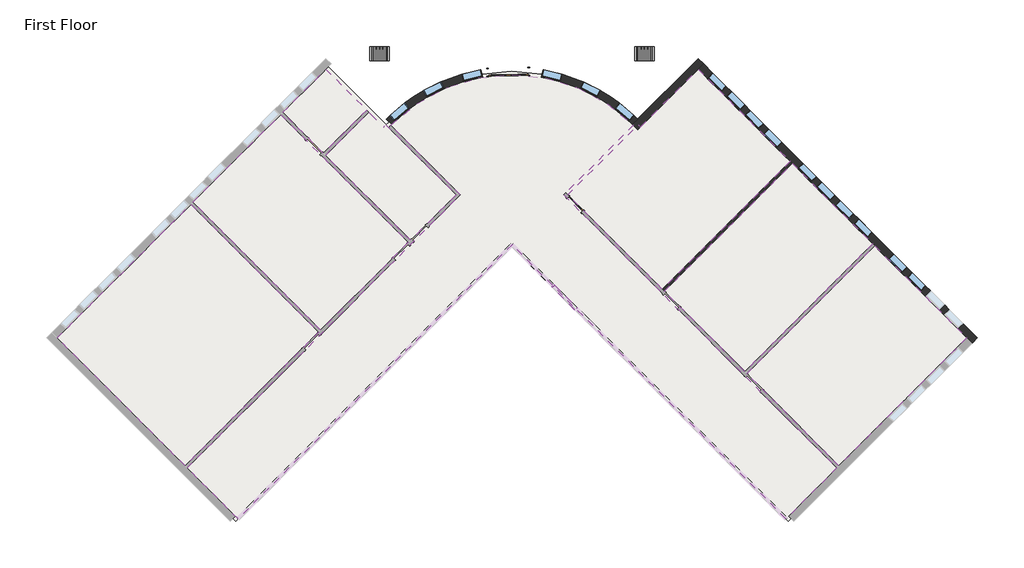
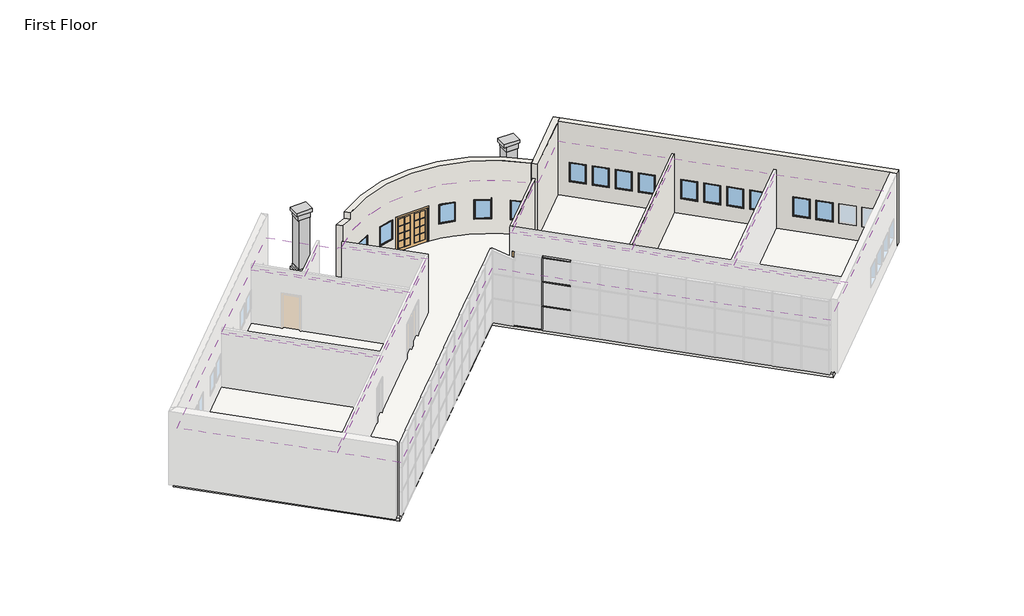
# One storey, part 4 of 4: 16 windows, 8 coverings, 7 members, 5 walls, 2 doors, 2 proxies, 1 slab.
"""IFC4 building model written with IfcOpenShell, lengths in millimetres."""

from ifc_helpers import new_model, si_unit, point, frame, frame_2d, origin, origin_with_axes, place, context, project, spatial, polyline, circle_curve, ellipse_curve, trimmed, segment, composite_curve, outline, extrude, faceted_brep, transform, mapped, element, save
from ifc_brep_helpers import plane_surface, cylinder_surface, revolved_surface, advanced_brep
from components import m_architecture_column_m_architecture_column_4d92dcec, m_double_glass_2_1830_x_2134mm_ef281dce, m_single_glass_1_0915_x_2134mm_4e5e1233, rectangular_mullion_50_x_150mm_40297ad3, rectangular_mullion_50_x_150mm_f494fff1, rectangular_mullion_50_x_150mm_5da8f88f, m_fixed_0915_x_1220mm_bde29121, m_fixed_0915_x_1220mm_2a2509e7

model = new_model("IFC4")

# Units and contexts
model_context = context("Model", 3, world=origin())
ifc_project = project(units=[si_unit("LENGTHUNIT", "METRE", prefix="MILLI")], contexts=[model_context])

# Site, building, storey
site = spatial("IfcSite", under=ifc_project)
building = spatial("IfcBuilding", under=site)
storey = spatial("IfcBuildingStorey", under=building, Name="First Floor", Elevation=0.0)

# Proxies
placement = place(None, origin())
m_architecture_column_m_architecture_column_shape = m_architecture_column_m_architecture_column_4d92dcec(model_context)
element("IfcBuildingElementProxy", 1, Name="M_architecture_column : M_architecture_column", ObjectType="M_architecture_column : M_architecture_column", at=placement, inside=storey, context=model_context, shape_type="MappedRepresentation", body=[
    mapped(m_architecture_column_m_architecture_column_shape, transform((-7731.6648159, 8125.0714361, 0.0), x_axis=(-1.0, 0.0, 0.0), y_axis=(0.0, -1.0, 0.0), z_axis=(0.0, 0.0, 1.0))),
])
element("IfcBuildingElementProxy", 2, Name="M_architecture_column : M_architecture_column", ObjectType="M_architecture_column : M_architecture_column", at=placement, inside=storey, context=model_context, shape_type="MappedRepresentation", body=[
    mapped(m_architecture_column_m_architecture_column_shape, transform((4529.1734241, 8125.0714361, 0.0), x_axis=(-1.0, 0.0, 0.0), y_axis=(0.0, -1.0, 0.0), z_axis=(0.0, 0.0, 1.0))),
])

# Coverings
element("IfcCovering", 3, ObjectType="600 x 600mm grid", at=placement, inside=storey, context=model_context, shape_type="SweptSolid", body=[
    extrude(outline(polyline([(-10551.8033322, -2052.473346), (-16737.0431239, -8237.7131378), (-22658.8856396, -2315.870622), (-16473.6458479, 3869.3691697), (-10551.8033322, -2052.473346)])), frame((0.0, 0.0, 3353.0), z_axis=(0.0, 0.0, 1.0), x_axis=(1.0, 0.0, 0.0)), (0.0, 0.0, 1.0), 52.0),
])
element("IfcCovering", 4, ObjectType="600 x 600mm grid", at=placement, inside=storey, context=model_context, shape_type="SweptSolid", body=[
    extrude(outline(polyline([(-16375.7115587, 3967.3034589), (-12319.9238385, 8023.0911791), (-6398.0813228, 2101.2486633), (-10453.869043, -1954.5390569), (-16375.7115587, 3967.3034589)])), frame((0.0, 0.0, 3353.0), z_axis=(0.0, 0.0, 1.0), x_axis=(1.0, 0.0, 0.0)), (0.0, 0.0, 1.0), 52.0),
])
element("IfcCovering", 5, ObjectType="600 x 600mm grid", at=placement, inside=storey, context=model_context, shape_type="SweptSolid", body=[
    extrude(outline(polyline([(-12221.9895493, 8121.0254683), (-10222.2915721, 10120.7234455), (-8331.6648159, 8230.0966893), (-10331.3627931, 6230.3987121), (-12221.9895493, 8121.0254683)])), frame((0.0, 0.0, 3353.0), z_axis=(0.0, 0.0, 1.0), x_axis=(1.0, 0.0, 0.0)), (0.0, 0.0, 1.0), 52.0),
])
element("IfcCovering", 6, ObjectType="600 x 600mm grid", at=placement, inside=storey, context=model_context, shape_type="SweptSolid", body=[
    extrude(outline(polyline([(-8233.7305267, 8132.1624001), (-7543.133828, 7441.5657013), (-7436.5374807, 7548.1620486), (-4193.8527091, 4305.477277), (-6300.1470336, 2199.1829525), (-10233.4285039, 6132.4644229), (-8233.7305267, 8132.1624001)])), frame((0.0, 0.0, 3353.0), z_axis=(0.0, 0.0, 1.0), x_axis=(1.0, 0.0, 0.0)), (0.0, 0.0, 1.0), 52.0),
])
element("IfcCovering", 7, ObjectType="600 x 600mm grid", at=placement, inside=storey, context=model_context, shape_type="SweptSolid", body=[
    extrude(outline(polyline([(4234.0460889, 7548.1620486), (4340.6424361, 7441.5657013), (7019.8001803, 10120.7234455), (11281.3559738, 5859.167652), (5359.5134581, -62.6748638), (991.3613173, 4305.477277), (4234.0460889, 7548.1620486)])), frame((0.0, 0.0, 3353.0), z_axis=(0.0, 0.0, 1.0), x_axis=(1.0, 0.0, 0.0)), (0.0, 0.0, 1.0), 52.0),
])
element("IfcCovering", 8, ObjectType="600 x 600mm grid", at=placement, inside=storey, context=model_context, shape_type="SweptSolid", body=[
    extrude(outline(polyline([(11379.290263, 5761.2333628), (15096.9041651, 2043.6194607), (9175.0616494, -3878.2230551), (5457.4477473, -160.609153), (11379.290263, 5761.2333628)])), frame((0.0, 0.0, 3353.0), z_axis=(0.0, 0.0, 1.0), x_axis=(1.0, 0.0, 0.0)), (0.0, 0.0, 1.0), 52.0),
])
element("IfcCovering", 9, ObjectType="600 x 600mm grid", at=placement, inside=storey, context=model_context, shape_type="SweptSolid", body=[
    extrude(outline(polyline([(15194.8384543, 1945.6851715), (19456.3942478, -2315.870622), (13534.5517321, -8237.7131378), (9272.9959386, -3976.1573443), (15194.8384543, 1945.6851715)])), frame((0.0, 0.0, 3353.0), z_axis=(0.0, 0.0, 1.0), x_axis=(1.0, 0.0, 0.0)), (0.0, 0.0, 1.0), 52.0),
])
element("IfcCovering", 10, ObjectType="600 x 600mm grid", at=placement, inside=storey, context=model_context, shape_type="SweptSolid", body=[
    extrude(outline(composite_curve([segment(polyline([(795.4927389, 4305.477277), (13436.6174429, -8335.647427), (11082.835745, -10689.4291248), (-1601.2456959, 1994.6523161), (-14285.3271368, -10689.4291248), (-16639.1088347, -8335.647427), (-3997.9841307, 4305.477277), (-7216.038281, 7523.5314273)]), True, "CONTINUOUS"), segment(trimmed(circle_curve(frame_2d((-1601.2456959, 1994.6523161)), 7880.0), [point((-7216.038281, 7523.5314273))], [point((4013.5468892, 7523.5314273))], False, "CARTESIAN"), True, "CONTINUOUS"), segment(polyline([(4013.5468892, 7523.5314273), (795.4927389, 4305.477277)]), True, "CONTINUOUS")], self_intersect=False)), frame((0.0, 0.0, 3353.0), z_axis=(0.0, 0.0, 1.0), x_axis=(1.0, 0.0, 0.0)), (0.0, 0.0, 1.0), 52.0),
])

# Doors
m_double_glass_2_1830_x_2134mm_shape = m_double_glass_2_1830_x_2134mm_ef281dce(model_context)
element("IfcDoor", 11, ObjectType="M_Double-Glass 2 : 1830 x 2134mm", at=placement, inside=storey, context=model_context, shape_type="MappedRepresentation", body=[
    mapped(m_double_glass_2_1830_x_2134mm_shape, transform((-1775.1372024, 9996.7407669, 0.0), x_axis=(-0.9997639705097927, -0.021725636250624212, 0.0), y_axis=(0.021725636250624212, -0.9997639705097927, 0.0), z_axis=(0.0, 0.0, 1.0))),
])
m_single_glass_1_0915_x_2134mm_shape = m_single_glass_1_0915_x_2134mm_4e5e1233(model_context)
element("IfcDoor", 12, ObjectType="M_Single-Glass 1 : 0915 x 2134mm", at=placement, inside=storey, context=model_context, shape_type="MappedRepresentation", body=[
    mapped(m_single_glass_1_0915_x_2134mm_shape, transform((1324.7621646, 3874.1421405, 0.0), x_axis=(-0.7071067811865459, 0.7071067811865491, 0.0), y_axis=(-0.7071067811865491, -0.7071067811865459, 0.0), z_axis=(0.0, 0.0, 1.0))),
])

# Members
rectangular_mullion_50_x_150mm_shape = rectangular_mullion_50_x_150mm_40297ad3(model_context)
element("IfcMember", 13, ObjectType="Rectangular Mullion : 50 x 150mm", at=placement, inside=storey, context=model_context, shape_type="MappedRepresentation", body=[
    mapped(rectangular_mullion_50_x_150mm_shape, transform((306.5283997, 86.8782204, 0.0), x_axis=(-0.7071067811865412, 0.7071067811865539, 0.0), y_axis=(0.7071067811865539, 0.7071067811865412, 0.0), z_axis=(0.0, 0.0, -1.0))),
])
rectangular_mullion_50_x_150mm_2_shape = rectangular_mullion_50_x_150mm_f494fff1(model_context)
element("IfcMember", 14, ObjectType="Rectangular Mullion : 50 x 150mm", at=placement, inside=storey, context=model_context, shape_type="MappedRepresentation", body=[
    mapped(rectangular_mullion_50_x_150mm_2_shape, transform((324.2060693, 69.2005509, 1524.0), x_axis=(0.0, 0.0, 1.0), y_axis=(0.7071067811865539, 0.7071067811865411, 0.0), z_axis=(-0.7071067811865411, 0.7071067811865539, 0.0))),
])
element("IfcMember", 15, ObjectType="Rectangular Mullion : 50 x 150mm", at=placement, inside=storey, context=model_context, shape_type="MappedRepresentation", body=[
    mapped(rectangular_mullion_50_x_150mm_2_shape, transform((324.2060693, 69.2005509, 3048.0), x_axis=(0.0, 0.0, 1.0), y_axis=(0.7071067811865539, 0.7071067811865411, 0.0), z_axis=(-0.7071067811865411, 0.7071067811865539, 0.0))),
])
rectangular_mullion_50_x_150mm_3_shape = rectangular_mullion_50_x_150mm_5da8f88f(model_context)
element("IfcMember", 16, ObjectType="Rectangular Mullion : 50 x 150mm", at=placement, inside=storey, context=model_context, shape_type="MappedRepresentation", body=[
    mapped(rectangular_mullion_50_x_150mm_3_shape, transform((288.8507302, 104.55589, 0.0), x_axis=(0.0, 0.0, -1.0), y_axis=(0.7071067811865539, 0.7071067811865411, 0.0), z_axis=(0.7071067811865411, -0.7071067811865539, 0.0))),
])
element("IfcMember", 17, ObjectType="Rectangular Mullion : 50 x 150mm", at=placement, inside=storey, context=model_context, shape_type="MappedRepresentation", body=[
    mapped(rectangular_mullion_50_x_150mm_3_shape, transform((324.2060693, 69.2005509, 4572.0), x_axis=(0.0, 0.0, 1.0), y_axis=(0.7071067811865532, 0.7071067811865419, 0.0), z_axis=(-0.7071067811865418, 0.7071067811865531, 0.0))),
])
element("IfcMember", 18, ObjectType="Rectangular Mullion : 50 x 150mm", at=placement, inside=storey, context=model_context, shape_type="MappedRepresentation", body=[
    mapped(rectangular_mullion_50_x_150mm_shape, transform((306.5283997, 86.8782204, 1524.0), x_axis=(-0.7071067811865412, 0.7071067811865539, 0.0), y_axis=(0.7071067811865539, 0.7071067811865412, 0.0), z_axis=(0.0, 0.0, -1.0))),
])
element("IfcMember", 19, ObjectType="Rectangular Mullion : 50 x 150mm", at=placement, inside=storey, context=model_context, shape_type="MappedRepresentation", body=[
    mapped(rectangular_mullion_50_x_150mm_shape, transform((306.5283997, 86.8782204, 3048.0), x_axis=(-0.7071067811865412, 0.7071067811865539, 0.0), y_axis=(0.7071067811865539, 0.7071067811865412, 0.0), z_axis=(0.0, 0.0, -1.0))),
])

# Slab
element("IfcSlab", 20, ObjectType="160mm Concrete With 50mm Metal Deck", at=placement, inside=storey, context=model_context, shape_type="SweptSolid", body=[
    extrude(outline(composite_curve([segment(polyline([(-10222.2915721, 10354.0686833), (-7419.2302211, 7551.0073322)]), True, "CONTINUOUS"), segment(trimmed(circle_curve(frame_2d((-1601.2456959, 1994.6523161)), 8045.0), [point((-7419.2302211, 7551.0073322))], [point((4216.7388292, 7551.0073322))], False, "CARTESIAN"), True, "CONTINUOUS"), segment(polyline([(4216.7388292, 7551.0073322), (7019.8001803, 10354.0686833), (19689.7394856, -2315.870622), (11199.5083639, -10806.1017437), (-1601.2456959, 1994.6523161), (-14401.9997557, -10806.1017437), (-22892.2308774, -2315.870622), (-10222.2915721, 10354.0686833)]), True, "CONTINUOUS")], self_intersect=False)), frame((0.0, 0.0, -210.0), z_axis=(0.0, 0.0, 1.0), x_axis=(1.0, 0.0, 0.0)), (0.0, 0.0, 1.0), 210.0),
])

# Walls
element("IfcWall", 21, ObjectType="Exterior - Brick on Mtl. Stud", at=placement, inside=storey, context=model_context, shape_type="AdvancedBrep", body=[
    advanced_brep(
    [(4212.7441701, 7313.6674352, 4572.0), (4212.7441701, 7313.6674352, 0.0), (7019.8001803, 10120.7234455, 0.0), (7267.2875537, 10368.2108189, 0.0), (7267.2875537, 10368.2108189, 4572.0), (7019.8001803, 10120.7234455, 4572.0), (3970.7557398, 7566.6537518, 0.0), (3970.7557398, 7566.6537518, 4572.0), (4218.2431133, 7814.1411252, 4572.0), (7019.8001803, 10615.6981923, 4572.0), (7019.8001803, 10615.6981923, 0.0), (4218.2431133, 7814.1411252, 0.0), (4109.8638796, 7423.9826013, 0.0), (4013.5506313, 7523.5275434, 0.0)],
    [
        (0, 1),
        (1, 2),
        (2, 3),
        (3, 4),
        (4, 5),
        (5, 0),
        (6, 7),
        (7, 8),
        (8, 9),
        (9, 10),
        (10, 11),
        (11, 6),
        (1, 12, circle_curve(frame((-1601.2456959, 1994.6523161, 0.0), z_axis=(0.0, 0.0, 1.0), x_axis=(1.0, 0.0, 0.0)), 7880.0)),
        (12, 13, circle_curve(frame((-1601.2456959, 1994.6523161, 0.0), z_axis=(0.0, 0.0, 1.0), x_axis=(1.0, 0.0, 0.0)), 7879.9999955)),
        (13, 6, circle_curve(frame((-1601.2456959, 1994.6523161, 0.0), z_axis=(0.0, 0.0, 1.0), x_axis=(1.0, 0.0, 0.0)), 7879.9999413)),
        (10, 3),
        (4, 9),
        (7, 0, circle_curve(frame((-1601.2456959, 1994.6523161, 4572.0), z_axis=(0.0, 0.0, -1.0), x_axis=(1.0, 0.0, 0.0)), 7880.0)),
    ],
    [
        plane_surface(frame((4250.0629184, 7350.9861836, 0.0), z_axis=(0.7071067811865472, -0.7071067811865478, 0.0), x_axis=(0.7071067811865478, 0.7071067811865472, 0.0))),
        plane_surface(frame((4002.575545, 7598.473557, 0.0), z_axis=(-0.7071067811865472, 0.7071067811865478, 0.0), x_axis=(-0.7071067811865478, -0.7071067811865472, 0.0))),
        plane_surface(frame((4340.6424361, 7441.5657013, 0.0), z_axis=(0.0, 0.0, -1.0), x_axis=(-0.7071067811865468, 0.7071067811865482, 0.0))),
        plane_surface(frame((7143.543867, 10244.4671322, 4572.0), z_axis=(0.0, 0.0, 1.0), x_axis=(-0.707106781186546, 0.7071067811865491, 0.0))),
        plane_surface(frame((7019.8001803, 10615.6981923, 0.0), z_axis=(0.7071067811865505, 0.7071067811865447, 0.0), x_axis=(-0.7071067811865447, 0.7071067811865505, 0.0))),
        revolved_surface(polyline([(6278.7543041, 1994.6523161, 0.0), (6278.7543041, 1994.6523161, 4572.0)]), (-1601.2456959, 1994.6523161, 0.0), (0.0, 0.0, -1.0)),
    ],
    [
        (0, [[1, 2, 3, 4, 5, 6]]),
        (1, [[7, 8, 9, 10, 11, 12]]),
        (2, [[-3, -2, 13, 14, 15, -12, -11, 16]]),
        (3, [[-6, -5, 17, -9, -8, 18]]),
        (4, [[-4, -16, -10, -17]]),
        (5, [[-18, -7, -15, -14, -13, -1]]),
    ],
),
])
element("IfcWall", 22, ObjectType="Exterior - Brick on Mtl. Stud", at=placement, inside=storey, context=model_context, shape_type="Brep", body=[
    faceted_brep([(7019.8001803, 10120.7234455, 0.0), (11281.3559738, 5859.167652, 0.0), (11379.290263, 5761.2333628, 0.0), (15096.9041651, 2043.6194607, 0.0), (15194.8384543, 1945.6851715, 0.0), (19456.3942478, -2315.870622, 0.0), (19703.8816212, -2563.3579955, 0.0), (19703.8816212, -2563.3579955, 4572.0), (19456.3942478, -2315.870622, 4572.0), (7019.8001803, 10120.7234455, 4572.0), (19041.6761207, -1901.1524949, 915.0), (18394.6734159, -1254.1497901, 915.0), (18394.6734159, -1254.1497901, 2135.0), (19041.6761207, -1901.1524949, 2135.0), (18179.7129544, -1039.1893286, 915.0), (17532.7102496, -392.1866238, 915.0), (17532.7102496, -392.1866238, 2135.0), (18179.7129544, -1039.1893286, 2135.0), (17317.7497881, -177.2261623, 915.0), (16670.7470833, 469.7765424, 915.0), (16670.7470833, 469.7765424, 2135.0), (17317.7497881, -177.2261623, 2135.0), (16455.7866219, 684.7370039, 915.0), (15808.7839171, 1331.7397087, 915.0), (15808.7839171, 1331.7397087, 2135.0), (16455.7866219, 684.7370039, 2135.0), (12257.1680181, 4883.3556077, 915.0), (11610.1653133, 5530.3583124, 915.0), (11610.1653133, 5530.3583124, 2135.0), (12257.1680181, 4883.3556077, 2135.0), (13119.1311844, 4021.3924414, 915.0), (12472.1284796, 4668.3951462, 915.0), (12472.1284796, 4668.3951462, 2135.0), (13119.1311844, 4021.3924414, 2135.0), (13981.0943507, 3159.4292751, 915.0), (13334.0916459, 3806.4319799, 915.0), (13334.0916459, 3806.4319799, 2135.0), (13981.0943507, 3159.4292751, 2135.0), (14843.0575169, 2297.4661089, 915.0), (14196.0548121, 2944.4688136, 915.0), (14196.0548121, 2944.4688136, 2135.0), (14843.0575169, 2297.4661089, 2135.0), (8081.5210123, 9059.0026135, 915.0), (7434.5183075, 9706.0053183, 915.0), (7434.5183075, 9706.0053183, 2135.0), (8081.5210123, 9059.0026135, 2135.0), (8943.4841785, 8197.0394473, 915.0), (8296.4814737, 8844.042152, 915.0), (8296.4814737, 8844.042152, 2135.0), (8943.4841785, 8197.0394473, 2135.0), (9805.4473448, 7335.076281, 915.0), (9158.44464, 7982.0789858, 915.0), (9158.44464, 7982.0789858, 2135.0), (9805.4473448, 7335.076281, 2135.0), (10667.4105111, 6473.1131147, 915.0), (10020.4078063, 7120.1158195, 915.0), (10020.4078063, 7120.1158195, 2135.0), (10667.4105111, 6473.1131147, 2135.0), (7267.2875537, 10368.2108189, 0.0), (7267.2875537, 10368.2108189, 4572.0), (19951.3689947, -2315.870622, 4572.0), (19951.3689947, -2315.870622, 0.0), (19289.1634941, -1653.6651215, 915.0), (19289.1634941, -1653.6651215, 2135.0), (18642.1607893, -1006.6624167, 2135.0), (18642.1607893, -1006.6624167, 915.0), (18427.2003278, -791.7019552, 915.0), (18427.2003278, -791.7019552, 2135.0), (17780.197623, -144.6992504, 2135.0), (17780.197623, -144.6992504, 915.0), (17565.2371615, 70.2612111, 915.0), (17565.2371615, 70.2612111, 2135.0), (16918.2344568, 717.2639159, 2135.0), (16918.2344568, 717.2639159, 915.0), (16703.2739953, 932.2243773, 915.0), (16703.2739953, 932.2243773, 2135.0), (16056.2712905, 1579.2270821, 2135.0), (16056.2712905, 1579.2270821, 915.0), (12504.6553915, 5130.8429811, 915.0), (12504.6553915, 5130.8429811, 2135.0), (11857.6526868, 5777.8456859, 2135.0), (11857.6526868, 5777.8456859, 915.0), (13366.6185578, 4268.8798148, 915.0), (13366.6185578, 4268.8798148, 2135.0), (12719.615853, 4915.8825196, 2135.0), (12719.615853, 4915.8825196, 915.0), (14228.5817241, 3406.9166485, 915.0), (14228.5817241, 3406.9166485, 2135.0), (13581.5790193, 4053.9193533, 2135.0), (13581.5790193, 4053.9193533, 915.0), (15090.5448903, 2544.9534823, 915.0), (15090.5448903, 2544.9534823, 2135.0), (14443.5421856, 3191.9561871, 2135.0), (14443.5421856, 3191.9561871, 915.0), (8329.0083857, 9306.4899869, 915.0), (8329.0083857, 9306.4899869, 2135.0), (7682.0056809, 9953.4926917, 2135.0), (7682.0056809, 9953.4926917, 915.0), (9190.971552, 8444.5268207, 915.0), (9190.971552, 8444.5268207, 2135.0), (8543.9688472, 9091.5295255, 2135.0), (8543.9688472, 9091.5295255, 915.0), (10052.9347182, 7582.5636544, 915.0), (10052.9347182, 7582.5636544, 2135.0), (9405.9320134, 8229.5663592, 2135.0), (9405.9320134, 8229.5663592, 915.0), (10914.8978845, 6720.6004881, 915.0), (10914.8978845, 6720.6004881, 2135.0), (10267.8951797, 7367.6031929, 2135.0), (10267.8951797, 7367.6031929, 915.0)], [[[0, 1, 2, 3, 4, 5, 6, 7, 8, 9], [10, 11, 12, 13], [14, 15, 16, 17], [18, 19, 20, 21], [22, 23, 24, 25], [26, 27, 28, 29], [30, 31, 32, 33], [34, 35, 36, 37], [38, 39, 40, 41], [42, 43, 44, 45], [46, 47, 48, 49], [50, 51, 52, 53], [54, 55, 56, 57]], [[58, 59, 60, 61], [62, 63, 64, 65], [66, 67, 68, 69], [70, 71, 72, 73], [74, 75, 76, 77], [78, 79, 80, 81], [82, 83, 84, 85], [86, 87, 88, 89], [90, 91, 92, 93], [94, 95, 96, 97], [98, 99, 100, 101], [102, 103, 104, 105], [106, 107, 108, 109]], [[6, 5, 4, 3, 2, 1, 0, 58, 61]], [[9, 8, 7, 60, 59]], [[0, 9, 59, 58]], [[7, 6, 61, 60]], [[63, 62, 10, 13]], [[64, 63, 13, 12]], [[65, 64, 12, 11]], [[62, 65, 11, 10]], [[67, 66, 14, 17]], [[68, 67, 17, 16]], [[69, 68, 16, 15]], [[66, 69, 15, 14]], [[71, 70, 18, 21]], [[72, 71, 21, 20]], [[73, 72, 20, 19]], [[70, 73, 19, 18]], [[75, 74, 22, 25]], [[76, 75, 25, 24]], [[77, 76, 24, 23]], [[74, 77, 23, 22]], [[79, 78, 26, 29]], [[80, 79, 29, 28]], [[81, 80, 28, 27]], [[78, 81, 27, 26]], [[83, 82, 30, 33]], [[84, 83, 33, 32]], [[85, 84, 32, 31]], [[82, 85, 31, 30]], [[87, 86, 34, 37]], [[88, 87, 37, 36]], [[89, 88, 36, 35]], [[86, 89, 35, 34]], [[91, 90, 38, 41]], [[92, 91, 41, 40]], [[93, 92, 40, 39]], [[90, 93, 39, 38]], [[95, 94, 42, 45]], [[96, 95, 45, 44]], [[97, 96, 44, 43]], [[94, 97, 43, 42]], [[99, 98, 46, 49]], [[100, 99, 49, 48]], [[101, 100, 48, 47]], [[98, 101, 47, 46]], [[103, 102, 50, 53]], [[104, 103, 53, 52]], [[105, 104, 52, 51]], [[102, 105, 51, 50]], [[107, 106, 54, 57]], [[108, 107, 57, 56]], [[109, 108, 56, 55]], [[106, 109, 55, 54]]]),
])
element("IfcWall", 23, ObjectType="Exterior - Brick on Mtl. Stud", at=placement, inside=storey, context=model_context, shape_type="AdvancedBrep", body=[
    advanced_brep(
    [(-7173.2471317, 7566.6537518, 0.0), (-7420.7345051, 7814.1411252, 0.0), (-2693.7232217, 10151.8205046, 0.0), (-2686.0696858, 9799.6223295, 0.0), (4218.2431133, 7814.1411252, 0.0), (3970.7557398, 7566.6537518, 0.0), (-856.5016198, 9839.3802439, 0.0), (-864.1551557, 10191.5784189, 0.0), (-7420.7345051, 7814.1411252, 4571.7250795), (-6493.7687298, 8612.515896, 4165.1754932), (-6493.7687298, 8612.515896, 4572.0), (4218.2431133, 7814.1411252, 4572.0), (-864.1551557, 10191.5784189, 2134.0), (-2693.7232217, 10151.8205046, 2134.0), (-6560.8584073, 8562.3872188, 915.0), (-6560.8584073, 8562.3872188, 2135.0), (-7259.2688911, 7971.2461222, 2135.0), (-7259.2688911, 7971.2461222, 915.0), (-3038.6037285, 10098.1640169, 915.0), (-3038.6037285, 10098.1640169, 2135.0), (-3929.264468, 9888.5251676, 2135.0), (-3929.264468, 9888.5251676, 915.0), (-4890.6166492, 9538.7187747, 915.0), (-4890.6166492, 9538.7187747, 2135.0), (-5707.7291441, 9126.9516431, 2135.0), (-5707.7291441, 9126.9516431, 915.0), (1688.1252574, 9538.7187747, 915.0), (2505.2377523, 9126.9516431, 915.0), (2505.2377523, 9126.9516431, 2135.0), (1688.1252574, 9538.7187747, 2135.0), (-163.8876633, 10098.1640169, 915.0), (726.7730762, 9888.5251676, 915.0), (726.7730762, 9888.5251676, 2135.0), (-163.8876633, 10098.1640169, 2135.0), (3358.3670155, 8562.3872188, 915.0), (4056.7774992, 7971.2461222, 915.0), (4056.7774992, 7971.2461222, 2135.0), (3358.3670155, 8562.3872188, 2135.0), (-7173.2471317, 7566.6537518, 4571.7250795), (-2686.0696858, 9799.6223295, 2134.0), (-856.5016198, 9839.3802439, 2134.0), (3970.7557398, 7566.6537518, 4572.0), (-6243.3914961, 8362.1386623, 4572.0), (-6243.3914961, 8362.1386623, 4165.1754932), (-6334.373084, 8294.8035149, 2135.0), (-6334.373084, 8294.8035149, 915.0), (-7032.7835678, 7703.6624182, 915.0), (-7032.7835678, 7703.6624182, 2135.0), (-2958.2842873, 9756.9230059, 2135.0), (-2958.2842873, 9756.9230059, 915.0), (-3848.9450268, 9547.2841566, 915.0), (-3848.9450268, 9547.2841566, 2135.0), (-4732.8553085, 9225.6564811, 915.0), (-5549.9678034, 8813.8893495, 915.0), (-5549.9678034, 8813.8893495, 2135.0), (-4732.8553085, 9225.6564811, 2135.0), (1530.3639167, 9225.6564811, 915.0), (1530.3639167, 9225.6564811, 2135.0), (2347.4764116, 8813.8893495, 2135.0), (2347.4764116, 8813.8893495, 915.0), (-244.2071045, 9756.9230059, 915.0), (-244.2071045, 9756.9230059, 2135.0), (646.453635, 9547.2841566, 2135.0), (646.453635, 9547.2841566, 915.0), (3131.8816922, 8294.8035149, 915.0), (3131.8816922, 8294.8035149, 2135.0), (3830.2921759, 7703.6624182, 2135.0), (3830.2921759, 7703.6624182, 915.0)],
    [
        (0, 1),
        (1, 2, circle_curve(frame((-1601.2456959, 1994.6523161, 0.0), z_axis=(0.0, 0.0, -1.0), x_axis=(1.0, 0.0, 0.0)), 8230.0)),
        (2, 3),
        (3, 0, circle_curve(frame((-1601.2456959, 1994.6523161, 0.0), z_axis=(0.0, 0.0, 1.0), x_axis=(1.0, 0.0, 0.0)), 7880.0)),
        (4, 5),
        (5, 6, circle_curve(frame((-1601.2456959, 1994.6523161, 0.0), z_axis=(0.0, 0.0, 1.0), x_axis=(1.0, 0.0, 0.0)), 7880.0)),
        (6, 7),
        (7, 4, circle_curve(frame((-1601.2456959, 1994.6523161, 0.0), z_axis=(0.0, 0.0, -1.0), x_axis=(1.0, 0.0, 0.0)), 8230.0)),
        (1, 8),
        (8, 9, ellipse_curve(frame((-1601.2456959, 1994.6523161, 4571.7250795), z_axis=(-0.22354885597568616, -0.22354885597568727, -0.948710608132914), x_axis=(-0.6708397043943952, -0.6708397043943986, 0.3161458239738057)), 8674.9319861, 8230.0)),
        (9, 10),
        (10, 11, circle_curve(frame((-1601.2456959, 1994.6523161, 4572.0), z_axis=(0.0, 0.0, -1.0), x_axis=(1.0, 0.0, 0.0)), 8230.0)),
        (11, 4),
        (7, 12),
        (12, 13, circle_curve(frame((-1601.2456959, 1994.6523161, 2134.0), z_axis=(0.0, 0.0, 1.0), x_axis=(1.0, 0.0, 0.0)), 8230.0)),
        (13, 2),
        (14, 15),
        (15, 16, circle_curve(frame((-1601.2456959, 1994.6523161, 2135.0), z_axis=(0.0, 0.0, 1.0), x_axis=(1.0, 0.0, 0.0)), 8230.0)),
        (16, 17),
        (17, 14, circle_curve(frame((-1601.2456959, 1994.6523161, 915.0), z_axis=(0.0, 0.0, -1.0), x_axis=(1.0, 0.0, 0.0)), 8230.0)),
        (18, 19),
        (19, 20, circle_curve(frame((-1601.2456959, 1994.6523161, 2135.0), z_axis=(0.0, 0.0, 1.0), x_axis=(1.0, 0.0, 0.0)), 8230.0)),
        (20, 21),
        (21, 18, circle_curve(frame((-1601.2456959, 1994.6523161, 915.0), z_axis=(0.0, 0.0, -1.0), x_axis=(1.0, 0.0, 0.0)), 8230.0)),
        (22, 23),
        (23, 24, circle_curve(frame((-1601.2456959, 1994.6523161, 2135.0), z_axis=(0.0, 0.0, 1.0), x_axis=(1.0, 0.0, 0.0)), 8230.0)),
        (24, 25),
        (25, 22, circle_curve(frame((-1601.2456959, 1994.6523161, 915.0), z_axis=(0.0, 0.0, -1.0), x_axis=(1.0, 0.0, 0.0)), 8230.0)),
        (26, 27, circle_curve(frame((-1601.2456959, 1994.6523161, 915.0), z_axis=(0.0, 0.0, -1.0), x_axis=(1.0, 0.0, 0.0)), 8230.0)),
        (27, 28),
        (28, 29, circle_curve(frame((-1601.2456959, 1994.6523161, 2135.0), z_axis=(0.0, 0.0, 1.0), x_axis=(1.0, 0.0, 0.0)), 8230.0)),
        (29, 26),
        (30, 31, circle_curve(frame((-1601.2456959, 1994.6523161, 915.0), z_axis=(0.0, 0.0, -1.0), x_axis=(1.0, 0.0, 0.0)), 8230.0)),
        (31, 32),
        (32, 33, circle_curve(frame((-1601.2456959, 1994.6523161, 2135.0), z_axis=(0.0, 0.0, 1.0), x_axis=(1.0, 0.0, 0.0)), 8230.0)),
        (33, 30),
        (34, 35, circle_curve(frame((-1601.2456959, 1994.6523161, 915.0), z_axis=(0.0, 0.0, -1.0), x_axis=(1.0, 0.0, 0.0)), 8230.0)),
        (35, 36),
        (36, 37, circle_curve(frame((-1601.2456959, 1994.6523161, 2135.0), z_axis=(0.0, 0.0, 1.0), x_axis=(1.0, 0.0, 0.0)), 8230.0)),
        (37, 34),
        (38, 0),
        (3, 39),
        (39, 40, circle_curve(frame((-1601.2456959, 1994.6523161, 2134.0), z_axis=(0.0, 0.0, -1.0), x_axis=(1.0, 0.0, 0.0)), 7880.0)),
        (40, 6),
        (5, 41),
        (41, 42, circle_curve(frame((-1601.2456959, 1994.6523161, 4572.0), z_axis=(0.0, 0.0, 1.0), x_axis=(1.0, 0.0, 0.0)), 7880.0)),
        (42, 43),
        (43, 38, ellipse_curve(frame((-1601.2456959, 1994.6523161, 4571.7250795), z_axis=(0.22354885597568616, 0.22354885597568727, 0.948710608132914), x_axis=(0.6708397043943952, 0.6708397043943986, -0.3161458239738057)), 8306.0102126, 7880.0)),
        (44, 45),
        (45, 46, circle_curve(frame((-1601.2456959, 1994.6523161, 915.0), z_axis=(0.0, 0.0, 1.0), x_axis=(1.0, 0.0, 0.0)), 7880.0)),
        (46, 47),
        (47, 44, circle_curve(frame((-1601.2456959, 1994.6523161, 2135.0), z_axis=(0.0, 0.0, -1.0), x_axis=(1.0, 0.0, 0.0)), 7880.0)),
        (48, 49),
        (49, 50, circle_curve(frame((-1601.2456959, 1994.6523161, 915.0), z_axis=(0.0, 0.0, 1.0), x_axis=(1.0, 0.0, 0.0)), 7880.0)),
        (50, 51),
        (51, 48, circle_curve(frame((-1601.2456959, 1994.6523161, 2135.0), z_axis=(0.0, 0.0, -1.0), x_axis=(1.0, 0.0, 0.0)), 7880.0)),
        (52, 53, circle_curve(frame((-1601.2456959, 1994.6523161, 915.0), z_axis=(0.0, 0.0, 1.0), x_axis=(1.0, 0.0, 0.0)), 7880.0)),
        (53, 54),
        (54, 55, circle_curve(frame((-1601.2456959, 1994.6523161, 2135.0), z_axis=(0.0, 0.0, -1.0), x_axis=(1.0, 0.0, 0.0)), 7880.0)),
        (55, 52),
        (56, 57),
        (57, 58, circle_curve(frame((-1601.2456959, 1994.6523161, 2135.0), z_axis=(0.0, 0.0, -1.0), x_axis=(1.0, 0.0, 0.0)), 7880.0)),
        (58, 59),
        (59, 56, circle_curve(frame((-1601.2456959, 1994.6523161, 915.0), z_axis=(0.0, 0.0, 1.0), x_axis=(1.0, 0.0, 0.0)), 7880.0)),
        (60, 61),
        (61, 62, circle_curve(frame((-1601.2456959, 1994.6523161, 2135.0), z_axis=(0.0, 0.0, -1.0), x_axis=(1.0, 0.0, 0.0)), 7880.0)),
        (62, 63),
        (63, 60, circle_curve(frame((-1601.2456959, 1994.6523161, 915.0), z_axis=(0.0, 0.0, 1.0), x_axis=(1.0, 0.0, 0.0)), 7880.0)),
        (64, 65),
        (65, 66, circle_curve(frame((-1601.2456959, 1994.6523161, 2135.0), z_axis=(0.0, 0.0, -1.0), x_axis=(1.0, 0.0, 0.0)), 7880.0)),
        (66, 67),
        (67, 64, circle_curve(frame((-1601.2456959, 1994.6523161, 915.0), z_axis=(0.0, 0.0, 1.0), x_axis=(1.0, 0.0, 0.0)), 7880.0)),
        (38, 8),
        (11, 41),
        (13, 39),
        (12, 40),
        (14, 45),
        (44, 15),
        (47, 16),
        (46, 17),
        (18, 49),
        (48, 19),
        (51, 20),
        (50, 21),
        (22, 52),
        (55, 23),
        (54, 24),
        (53, 25),
        (56, 26),
        (29, 57),
        (28, 58),
        (27, 59),
        (60, 30),
        (33, 61),
        (32, 62),
        (31, 63),
        (64, 34),
        (37, 65),
        (36, 66),
        (35, 67),
        (10, 42),
        (9, 43),
    ],
    [
        plane_surface(frame((6628.7543041, 1994.6523161, 0.0), z_axis=(0.0, 0.0, -1.0), x_axis=(0.0, -1.0, 0.0))),
        cylinder_surface(frame((-1601.2456959, 1994.6523161, 0.0), z_axis=(0.0, 0.0, 1.0), x_axis=(1.0, 0.0, 0.0)), 8230.0),
        revolved_surface(polyline([(6278.7543041, 1994.6523161, 0.0), (6278.7543041, 1994.6523161, 7197.635522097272)]), (-1601.2456959, 1994.6523161, 0.0), (0.0, 0.0, -1.0)),
        plane_surface(frame((-10222.2915721, 10615.6981923, 0.0), z_axis=(-0.7071067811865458, -0.7071067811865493, 0.0), x_axis=(-0.7071067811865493, 0.7071067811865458, 0.0))),
        plane_surface(frame((4002.575545, 7598.473557, 0.0), z_axis=(0.7071067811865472, -0.7071067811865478, 0.0), x_axis=(-0.7071067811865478, -0.7071067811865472, 0.0))),
        plane_surface(frame((-2726.8330914, 11675.4607956, 0.0), z_axis=(0.9997639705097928, 0.021725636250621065, 0.0), x_axis=(0.021725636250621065, -0.9997639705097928, 0.0))),
        plane_surface(frame((-2726.8330914, 11675.4607956, 2134.0), z_axis=(0.0, 0.0, -1.0000000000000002), x_axis=(0.021725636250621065, -0.9997639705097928, 0.0))),
        plane_surface(frame((-897.2650253, 11715.21871, 2134.0), z_axis=(-0.9997639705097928, -0.021725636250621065, 0.0), x_axis=(0.021725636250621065, -0.9997639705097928, 0.0))),
        plane_surface(frame((-6560.8584073, 8562.3872188, 915.0), z_axis=(-0.7632901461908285, -0.6460558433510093, 0.0), x_axis=(0.6460558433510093, -0.7632901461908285, 0.0))),
        plane_surface(frame((-6560.8584073, 8562.3872188, 2135.0), z_axis=(0.0, 0.0, -1.0000000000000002), x_axis=(0.6460558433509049, -0.7632901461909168, 0.0))),
        plane_surface(frame((-7259.2688911, 7971.2461222, 2135.0), z_axis=(0.7632901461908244, 0.6460558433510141, 0.0), x_axis=(0.6460558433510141, -0.7632901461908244, 0.0))),
        plane_surface(frame((-7259.2688911, 7971.2461222, 915.0), z_axis=(0.0, 0.0, 1.0), x_axis=(0.6460558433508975, -0.7632901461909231, 0.0))),
        plane_surface(frame((-2689.4347599, 8614.7028508, 915.0), z_axis=(-0.9733997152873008, -0.22911349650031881, 0.0), x_axis=(-0.22911349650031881, 0.9733997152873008, 0.0))),
        plane_surface(frame((-2689.4347599, 8614.7028508, 2135.0), z_axis=(0.0, 0.0, -1.0), x_axis=(-0.22911349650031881, 0.9733997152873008, 0.0))),
        plane_surface(frame((-3580.0954993, 8405.0640015, 2135.0), z_axis=(0.9733997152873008, 0.2291134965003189, 0.0), x_axis=(-0.2291134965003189, 0.9733997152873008, 0.0))),
        plane_surface(frame((-3580.0954993, 8405.0640015, 915.0), z_axis=(0.0, 0.0, 1.0), x_axis=(-0.2291134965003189, 0.9733997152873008, 0.0))),
        plane_surface(frame((-4890.6166492, 9538.7187747, 915.0), z_axis=(-0.893019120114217, -0.45001872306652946, 0.0), x_axis=(0.45001872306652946, -0.893019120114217, 0.0))),
        plane_surface(frame((-4890.6166492, 9538.7187747, 2135.0), z_axis=(0.0, 0.0, -1.0), x_axis=(0.4500187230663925, -0.893019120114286, 0.0))),
        plane_surface(frame((-5707.7291441, 9126.9516431, 2135.0), z_axis=(0.8930191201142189, 0.4500187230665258, 0.0), x_axis=(0.4500187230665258, -0.8930191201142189, 0.0))),
        plane_surface(frame((-5707.7291441, 9126.9516431, 915.0), z_axis=(0.0, 0.0, 1.0), x_axis=(0.4500187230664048, -0.8930191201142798, 0.0))),
        plane_surface(frame((1530.3639167, 9225.6564811, 915.0), z_axis=(0.8930191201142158, -0.45001872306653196, 0.0), x_axis=(0.45001872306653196, 0.8930191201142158, 0.0))),
        plane_surface(frame((1530.3639167, 9225.6564811, 2135.0), z_axis=(0.0, 0.0, -1.0000000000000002), x_axis=(0.4500187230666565, 0.8930191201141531, 0.0))),
        plane_surface(frame((2347.4764116, 8813.8893495, 2135.0), z_axis=(-0.8930191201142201, 0.4500187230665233, 0.0), x_axis=(0.4500187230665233, 0.8930191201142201, 0.0))),
        plane_surface(frame((2347.4764116, 8813.8893495, 915.0), z_axis=(0.0, 0.0, 1.0000000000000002), x_axis=(0.45001872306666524, 0.8930191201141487, 0.0))),
        plane_surface(frame((-244.2071045, 9756.9230059, 915.0), z_axis=(0.9733997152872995, -0.22911349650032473, 0.0), x_axis=(0.22911349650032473, 0.9733997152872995, 0.0))),
        plane_surface(frame((-244.2071045, 9756.9230059, 2135.0), z_axis=(0.0, 0.0, -1.0), x_axis=(0.2291134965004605, 0.9733997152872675, 0.0))),
        plane_surface(frame((646.453635, 9547.2841566, 2135.0), z_axis=(-0.9733997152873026, 0.22911349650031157, 0.0), x_axis=(0.22911349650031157, 0.9733997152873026, 0.0))),
        plane_surface(frame((646.453635, 9547.2841566, 915.0), z_axis=(0.0, 0.0, 1.0000000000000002), x_axis=(0.22911349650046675, 0.9733997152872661, 0.0))),
        plane_surface(frame((3131.8816922, 8294.8035149, 915.0), z_axis=(0.7632901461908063, -0.6460558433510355, 0.0), x_axis=(0.6460558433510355, 0.7632901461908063, 0.0))),
        plane_surface(frame((3131.8816922, 8294.8035149, 2135.0), z_axis=(0.0, 0.0, -1.0), x_axis=(0.646055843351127, 0.7632901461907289, 0.0))),
        plane_surface(frame((3830.2921759, 7703.6624182, 2135.0), z_axis=(-0.76329014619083, 0.6460558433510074, 0.0), x_axis=(0.6460558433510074, 0.76329014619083, 0.0))),
        plane_surface(frame((3830.2921759, 7703.6624182, 915.0), z_axis=(0.0, 0.0, 1.0), x_axis=(0.6460558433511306, 0.7632901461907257, 0.0))),
        plane_surface(frame((6628.7543041, 1994.6523161, 4572.0), z_axis=(0.0, 0.0, 1.0), x_axis=(0.0, 1.0, 0.0))),
        plane_surface(frame((-5049.098361, 7167.8455272, 4165.1754932), z_axis=(-0.7071067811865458, -0.7071067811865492, 0.0), x_axis=(-0.7071067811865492, 0.7071067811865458, 0.0))),
        plane_surface(frame((124.0948502, 1994.6523161, 4165.1754932), z_axis=(0.22354885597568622, 0.22354885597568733, 0.9487106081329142), x_axis=(-0.7071067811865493, 0.7071067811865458, 0.0))),
    ],
    [
        (0, [[1, 2, 3, 4]]),
        (0, [[5, 6, 7, 8]]),
        (1, [[9, 10, 11, 12, 13, -8, 14, 15, 16, -2], [17, 18, 19, 20], [21, 22, 23, 24], [25, 26, 27, 28], [29, 30, 31, 32], [33, 34, 35, 36], [37, 38, 39, 40]]),
        (2, [[41, -4, 42, 43, 44, -6, 45, 46, 47, 48], [49, 50, 51, 52], [53, 54, 55, 56], [57, 58, 59, 60], [61, 62, 63, 64], [65, 66, 67, 68], [69, 70, 71, 72]]),
        (3, [[-1, -41, 73, -9]]),
        (4, [[74, -45, -5, -13]]),
        (5, [[75, -42, -3, -16]]),
        (6, [[-75, -15, 76, -43]]),
        (7, [[-76, -14, -7, -44]]),
        (8, [[-17, 77, -49, 78]]),
        (9, [[-18, -78, -52, 79]]),
        (10, [[-19, -79, -51, 80]]),
        (11, [[-20, -80, -50, -77]]),
        (12, [[81, -53, 82, -21]]),
        (13, [[-82, -56, 83, -22]]),
        (14, [[-83, -55, 84, -23]]),
        (15, [[-81, -24, -84, -54]]),
        (16, [[-25, 85, -60, 86]]),
        (17, [[-26, -86, -59, 87]]),
        (18, [[-27, -87, -58, 88]]),
        (19, [[-28, -88, -57, -85]]),
        (20, [[-61, 89, -32, 90]]),
        (21, [[-62, -90, -31, 91]]),
        (22, [[-63, -91, -30, 92]]),
        (23, [[-64, -92, -29, -89]]),
        (24, [[-65, 93, -36, 94]]),
        (25, [[-66, -94, -35, 95]]),
        (26, [[-67, -95, -34, 96]]),
        (27, [[-68, -96, -33, -93]]),
        (28, [[-69, 97, -40, 98]]),
        (29, [[-70, -98, -39, 99]]),
        (30, [[-71, -99, -38, 100]]),
        (31, [[-72, -100, -37, -97]]),
        (32, [[-74, -12, 101, -46]]),
        (33, [[-101, -11, 102, -47]]),
        (34, [[-10, -73, -48, -102]]),
    ],
),
])
element("IfcWall", 24, ObjectType="Interior - 138mm Partition (1-hr)", at=placement, inside=storey, context=model_context, shape_type="SweptSolid", body=[
    extrude(outline(composite_curve([segment(polyline([(4109.8652288, 7423.9811885), (991.3613173, 4305.477277), (893.4270281, 4403.4115662), (4013.5468892, 7523.5314273)]), True, "CONTINUOUS"), segment(trimmed(circle_curve(frame_2d((-1601.2456959, 1994.6523161)), 7880.0), [point((4013.5468892, 7523.5314273))], [point((4109.8652288, 7423.9811885))], False, "CARTESIAN"), True, "CONTINUOUS")], self_intersect=False)), origin_with_axes(), (0.0, 0.0, 1.0), 3658.0),
])
element("IfcWall", 25, ObjectType="Interior - 138mm Partition (1-hr)", at=placement, inside=storey, context=model_context, shape_type="SweptSolid", body=[
    extrude(outline(polyline([(11379.290263, 5761.2333628), (5457.4477473, -160.609153), (5359.5134581, -62.6748638), (11281.3559738, 5859.167652), (11379.290263, 5761.2333628)])), origin_with_axes(), (0.0, 0.0, 1.0), 3658.0),
])

# Windows
m_fixed_0915_x_1220mm_shape = m_fixed_0915_x_1220mm_bde29121(model_context)
element("IfcWindow", 26, ObjectType="M_Fixed : 0915 x 1220mm", at=placement, inside=storey, context=model_context, shape_type="MappedRepresentation", body=[
    mapped(m_fixed_0915_x_1220mm_shape, transform((-6805.4026025, 8143.1636668, 0.0), x_axis=(-0.7632901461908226, -0.6460558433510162, 0.0), y_axis=(0.6460558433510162, -0.7632901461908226, 0.0), z_axis=(0.0, 0.0, 1.0))),
])
element("IfcWindow", 27, ObjectType="M_Fixed : 0915 x 1220mm", at=placement, inside=storey, context=model_context, shape_type="MappedRepresentation", body=[
    mapped(m_fixed_0915_x_1220mm_shape, transform((-3446.8177118, 9835.6538384, 0.0), x_axis=(-0.9733997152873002, -0.22911349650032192, 0.0), y_axis=(0.22911349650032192, -0.9733997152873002, 0.0), z_axis=(0.0, 0.0, 1.0))),
])
element("IfcWindow", 28, ObjectType="M_Fixed : 0915 x 1220mm", at=placement, inside=storey, context=model_context, shape_type="MappedRepresentation", body=[
    mapped(m_fixed_0915_x_1220mm_shape, transform((-5226.2698635, 9188.1661114, 0.0), x_axis=(-0.8930191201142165, -0.45001872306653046, 0.0), y_axis=(0.45001872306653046, -0.8930191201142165, 0.0), z_axis=(0.0, 0.0, 1.0))),
])
element("IfcWindow", 29, ObjectType="M_Fixed : 0915 x 1220mm", at=placement, inside=storey, context=model_context, shape_type="MappedRepresentation", body=[
    mapped(m_fixed_0915_x_1220mm_shape, transform((17127.1845106, 279.2112649, 0.0), x_axis=(-0.7071067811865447, 0.7071067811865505, 0.0), y_axis=(-0.7071067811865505, -0.7071067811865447, 0.0), z_axis=(0.0, 0.0, 1.0))),
])
element("IfcWindow", 30, ObjectType="M_Fixed : 0915 x 1220mm", at=placement, inside=storey, context=model_context, shape_type="MappedRepresentation", body=[
    mapped(m_fixed_0915_x_1220mm_shape, transform((16265.2213443, 1141.1744312, 0.0), x_axis=(-0.7071067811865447, 0.7071067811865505, 0.0), y_axis=(-0.7071067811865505, -0.7071067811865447, 0.0), z_axis=(0.0, 0.0, 1.0))),
])
element("IfcWindow", 31, ObjectType="M_Fixed : 0915 x 1220mm", at=placement, inside=storey, context=model_context, shape_type="MappedRepresentation", body=[
    mapped(m_fixed_0915_x_1220mm_shape, transform((14652.4922394, 2753.9035361, 0.0), x_axis=(-0.7071067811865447, 0.7071067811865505, 0.0), y_axis=(-0.7071067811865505, -0.7071067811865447, 0.0), z_axis=(0.0, 0.0, 1.0))),
])
element("IfcWindow", 32, ObjectType="M_Fixed : 0915 x 1220mm", at=placement, inside=storey, context=model_context, shape_type="MappedRepresentation", body=[
    mapped(m_fixed_0915_x_1220mm_shape, transform((13790.5290731, 3615.8667024, 0.0), x_axis=(-0.7071067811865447, 0.7071067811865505, 0.0), y_axis=(-0.7071067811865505, -0.7071067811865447, 0.0), z_axis=(0.0, 0.0, 1.0))),
])
element("IfcWindow", 33, ObjectType="M_Fixed : 0915 x 1220mm", at=placement, inside=storey, context=model_context, shape_type="MappedRepresentation", body=[
    mapped(m_fixed_0915_x_1220mm_shape, transform((12928.5659069, 4477.8298686, 0.0), x_axis=(-0.7071067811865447, 0.7071067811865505, 0.0), y_axis=(-0.7071067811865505, -0.7071067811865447, 0.0), z_axis=(0.0, 0.0, 1.0))),
])
element("IfcWindow", 34, ObjectType="M_Fixed : 0915 x 1220mm", at=placement, inside=storey, context=model_context, shape_type="MappedRepresentation", body=[
    mapped(m_fixed_0915_x_1220mm_shape, transform((12066.6027406, 5339.7930349, 0.0), x_axis=(-0.7071067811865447, 0.7071067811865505, 0.0), y_axis=(-0.7071067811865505, -0.7071067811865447, 0.0), z_axis=(0.0, 0.0, 1.0))),
])
element("IfcWindow", 35, ObjectType="M_Fixed : 0915 x 1220mm", at=placement, inside=storey, context=model_context, shape_type="MappedRepresentation", body=[
    mapped(m_fixed_0915_x_1220mm_shape, transform((7890.9557347, 9515.4400408, 0.0), x_axis=(-0.7071067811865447, 0.7071067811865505, 0.0), y_axis=(-0.7071067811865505, -0.7071067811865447, 0.0), z_axis=(0.0, 0.0, 1.0))),
])
element("IfcWindow", 36, ObjectType="M_Fixed : 0915 x 1220mm", at=placement, inside=storey, context=model_context, shape_type="MappedRepresentation", body=[
    mapped(m_fixed_0915_x_1220mm_shape, transform((8752.918901, 8653.4768745, 0.0), x_axis=(-0.7071067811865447, 0.7071067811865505, 0.0), y_axis=(-0.7071067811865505, -0.7071067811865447, 0.0), z_axis=(0.0, 0.0, 1.0))),
])
element("IfcWindow", 37, ObjectType="M_Fixed : 0915 x 1220mm", at=placement, inside=storey, context=model_context, shape_type="MappedRepresentation", body=[
    mapped(m_fixed_0915_x_1220mm_shape, transform((9614.8820673, 7791.5137082, 0.0), x_axis=(-0.7071067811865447, 0.7071067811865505, 0.0), y_axis=(-0.7071067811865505, -0.7071067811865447, 0.0), z_axis=(0.0, 0.0, 1.0))),
])
element("IfcWindow", 38, ObjectType="M_Fixed : 0915 x 1220mm", at=placement, inside=storey, context=model_context, shape_type="MappedRepresentation", body=[
    mapped(m_fixed_0915_x_1220mm_shape, transform((10476.8452335, 6929.550542, 0.0), x_axis=(-0.7071067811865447, 0.7071067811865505, 0.0), y_axis=(-0.7071067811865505, -0.7071067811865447, 0.0), z_axis=(0.0, 0.0, 1.0))),
])
m_fixed_0915_x_1220mm_2_shape = m_fixed_0915_x_1220mm_2a2509e7(model_context)
element("IfcWindow", 39, ObjectType="M_Fixed : 0915 x 1220mm", at=placement, inside=storey, context=model_context, shape_type="MappedRepresentation", body=[
    mapped(m_fixed_0915_x_1220mm_2_shape, transform((3602.9112107, 8143.1636668, 0.0), x_axis=(0.7632901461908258, -0.6460558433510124, 0.0), y_axis=(0.6460558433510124, 0.7632901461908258, 0.0), z_axis=(0.0, 0.0, 1.0))),
])
element("IfcWindow", 40, ObjectType="M_Fixed : 0915 x 1220mm", at=placement, inside=storey, context=model_context, shape_type="MappedRepresentation", body=[
    mapped(m_fixed_0915_x_1220mm_2_shape, transform((244.32632, 9835.6538384, 0.0), x_axis=(0.9733997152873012, -0.2291134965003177, 0.0), y_axis=(0.2291134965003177, 0.9733997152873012, 0.0), z_axis=(0.0, 0.0, 1.0))),
])
element("IfcWindow", 41, ObjectType="M_Fixed : 0915 x 1220mm", at=placement, inside=storey, context=model_context, shape_type="MappedRepresentation", body=[
    mapped(m_fixed_0915_x_1220mm_2_shape, transform((2023.7784717, 9188.1661114, 0.0), x_axis=(0.8930191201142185, -0.4500187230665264, 0.0), y_axis=(0.4500187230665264, 0.8930191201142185, 0.0), z_axis=(0.0, 0.0, 1.0))),
])

save(model, "model.ifc")
